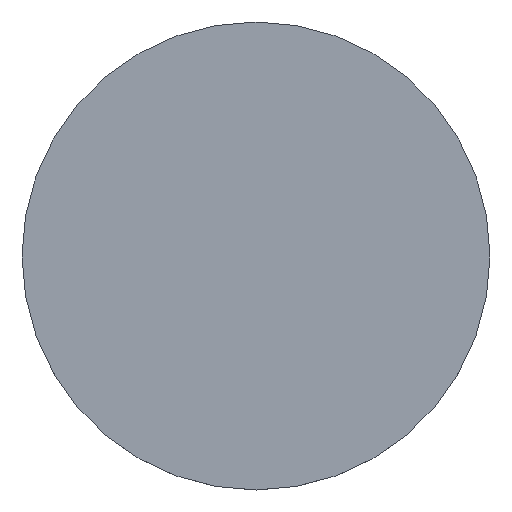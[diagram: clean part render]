
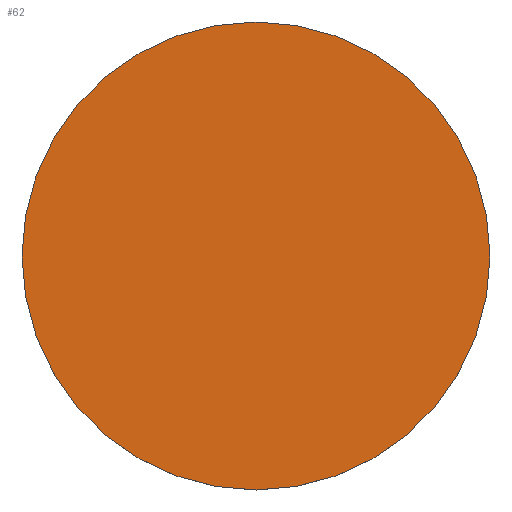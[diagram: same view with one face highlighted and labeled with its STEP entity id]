
A CAD part, top view. The second image highlights one B-rep face of the part: STEP entity #62.
In plain terms, the highlighted planar face has unit normal (0, 0, 1).
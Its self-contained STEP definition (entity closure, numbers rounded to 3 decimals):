
#62=ADVANCED_FACE('',(#80),#81,.T.);
#80=FACE_OUTER_BOUND('',#98,.T.);
#81=PLANE('',#99);
#98=EDGE_LOOP('',(#150,#151));
#99=AXIS2_PLACEMENT_3D('',#152,#153,#154);
#150=ORIENTED_EDGE('',*,*,#166,.T.);
#151=ORIENTED_EDGE('',*,*,#167,.T.);
#152=CARTESIAN_POINT('',(0.0,0.0,3.0));
#153=DIRECTION('',(0.0,0.0,1.0));
#154=DIRECTION('',(1.0,0.0,0.0));
#166=EDGE_CURVE('',#183,#187,#189,.T.);
#167=EDGE_CURVE('',#187,#183,#190,.T.);
#183=VERTEX_POINT('',#208);
#187=VERTEX_POINT('',#213);
#189=CIRCLE('',#216,10.0);
#190=CIRCLE('',#217,10.0);
#208=CARTESIAN_POINT('',(10.0,0.0,3.0));
#213=CARTESIAN_POINT('',(-10.0,0.,3.0));
#216=AXIS2_PLACEMENT_3D('',#244,#245,#246);
#217=AXIS2_PLACEMENT_3D('',#247,#248,#249);
#244=CARTESIAN_POINT('',(0.0,0.0,3.0));
#245=DIRECTION('',(0.0,0.0,1.0));
#246=DIRECTION('',(1.0,0.0,0.0));
#247=CARTESIAN_POINT('',(0.0,0.0,3.0));
#248=DIRECTION('',(0.0,0.0,1.0));
#249=DIRECTION('',(1.0,0.0,0.0));
